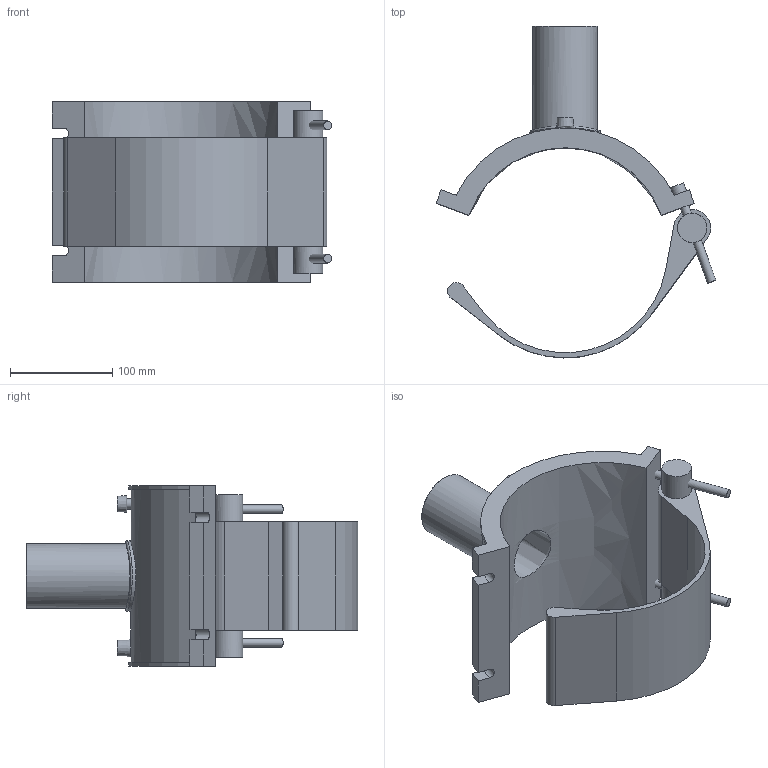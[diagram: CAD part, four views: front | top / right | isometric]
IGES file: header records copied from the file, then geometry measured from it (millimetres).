
Global section: file name: 495804200063.ipt; native system: Autodesk Inventor 2015; preprocessor: unknown; author: KIM; date: 20180426.120859; units: millimetre
Bounding box: 272.93 x 323.98 x 176 mm (x, y, z)
Volume: 1398198.4 mm3; surface area: 256529 mm2
Topology: 5 solids, 5 shells, 65 faces, 135 edges, 91 vertices
Faces by surface type: plane 37, cylinder 17, revolution 7, cone 3, bspline 1
Full cylindrical faces by diameter (mm): 4 x2, 8.4 x2, 14 x2, 28.8 x2, 63 x1, 69.3 x1
